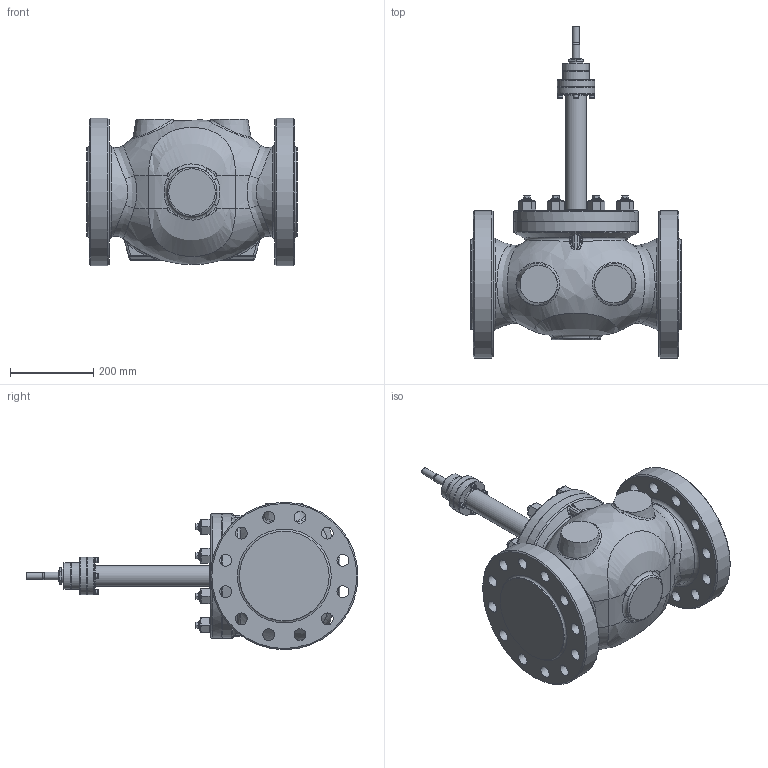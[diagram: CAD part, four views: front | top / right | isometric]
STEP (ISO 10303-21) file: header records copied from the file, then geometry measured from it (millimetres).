
FILE_DESCRIPTION(/* description */ (''),/* implementation_level */ '2;1');
FILE_NAME(/* name */ 'CV3xx_NPS_6_priruba_CL600_vlnovec.stp',/* time_stamp */ '2015-08-11T09:49:22+02:00',/* author */ (''),/* organization */ (''),/* preprocessor_version */ 'ST-DEVELOPER v15',/* originating_system */ 'SIEMENS PLM Software NX 8.5',/* authorisation */ '');
FILE_SCHEMA (('AP203_CONFIGURATION_CONTROLLED_3D_DESIGN_OF_MECHANICAL_PARTS_AND_ASSEMBLIES_MIM_LF { 1 0 10303 403 2 1 2}'));
Length unit declared in the file: millimetre
Products named in the file (1): adam1354300Cul5a
Bounding box: 508 x 799.5 x 355 mm (x, y, z)
Volume: 37301060.8 mm3; surface area: 1200257.6 mm2
Topology: 1 solids, 9 shells, 764 faces, 1785 edges, 1088 vertices
Faces by surface type: plane 255, cone 205, cylinder 161, bspline 86, torus 45, sphere 12
Full cylindrical faces by diameter (mm): 7 x4, 7.76 x4, 9 x4, 11.64 x4, 16 x1, 18 x1, 18.5 x8, 24 x24, 26 x8, 27 x1, 28.6 x24, 33 x1, 36 x16, 50 x1, 50.3 x2, 55 x1, 58 x1, 61.6 x1, 64 x1, 65 x1, 90 x2, 200 x1, 215.9 x2, 300 x2, 355 x2
Entity records: 23503 total; most frequent: CARTESIAN_POINT 8335, DIRECTION 2979, ORIENTED_EDGE 2908, EDGE_CURVE 1454, AXIS2_PLACEMENT_3D 1330, EDGE_LOOP 1094, VERTEX_POINT 966, ADVANCED_FACE 764
